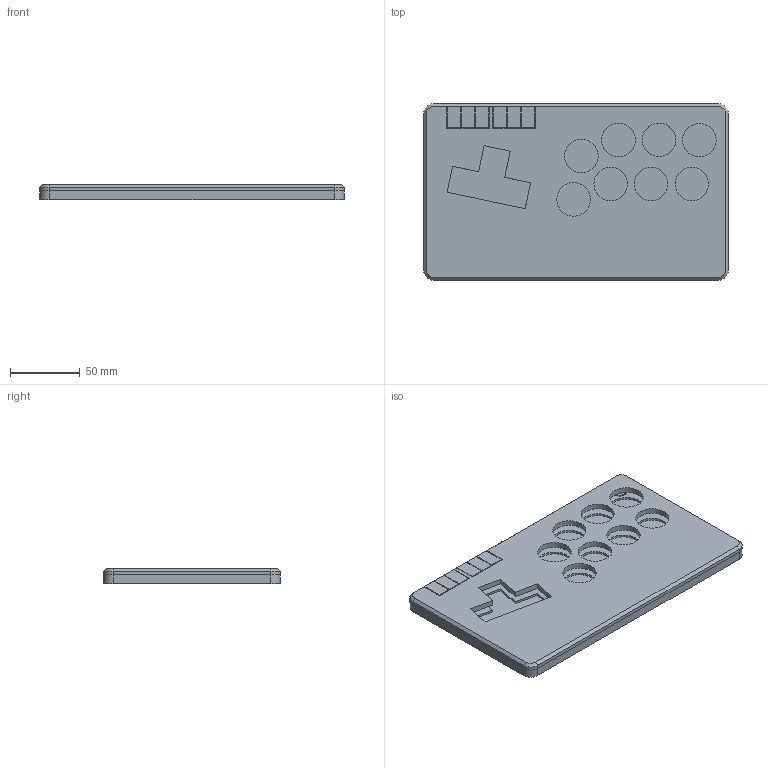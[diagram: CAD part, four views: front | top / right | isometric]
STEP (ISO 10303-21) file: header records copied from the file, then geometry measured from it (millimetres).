
FILE_DESCRIPTION(/* description */ (''),/* implementation_level */ '2;1');
FILE_NAME(/* name */ 'WASDbox-case v1.step',/* time_stamp */ '2023-07-27T21:02:31+10:00',/* author */ (''),/* organization */ (''),/* preprocessor_version */ 'ST-DEVELOPER v19.2',/* originating_system */ 'Autodesk Translation Framework v12.6.0.85',/* authorisation */ '');
FILE_SCHEMA (('AUTOMOTIVE_DESIGN { 1 0 10303 214 3 1 1 }'));
Length unit declared in the file: millimetre
Products named in the file (1): WASDbox-case
Bounding box: 218 x 126.4 x 10.8 mm (x, y, z)
Volume: 150566.6 mm3; surface area: 115928.3 mm2
Topology: 2 solids, 2 shells, 218 faces, 502 edges, 326 vertices
Faces by surface type: plane 133, cylinder 74, cone 11
Full cylindrical faces by diameter (mm): 2.8 x7, 3.3 x7, 6 x7, 6.1 x7, 10 x14, 24 x16
Entity records: 6250 total; most frequent: DIRECTION 1092, CARTESIAN_POINT 1047, ORIENTED_EDGE 1004, EDGE_CURVE 502, AXIS2_PLACEMENT_3D 371, LINE 350, VECTOR 350, VERTEX_POINT 326
